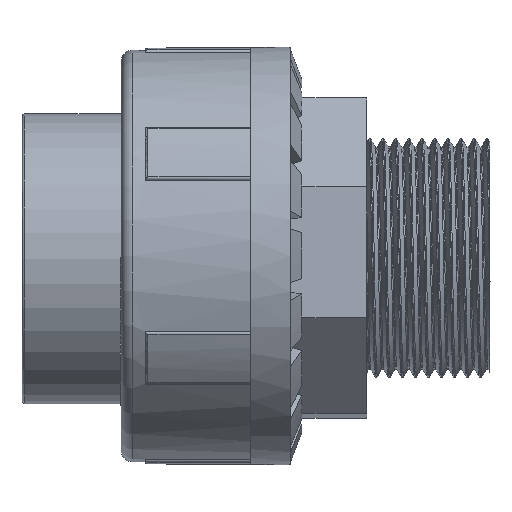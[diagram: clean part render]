
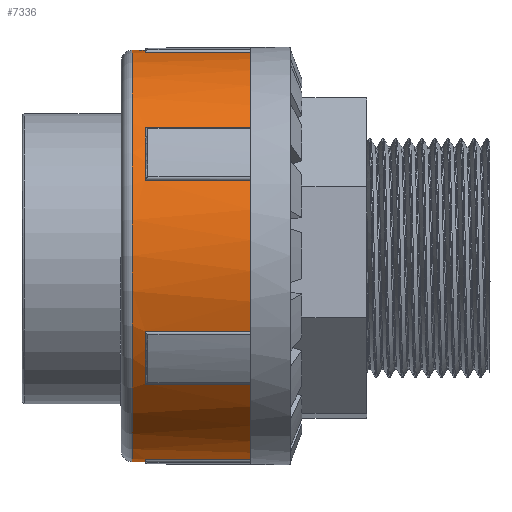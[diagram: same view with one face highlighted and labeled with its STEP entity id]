
A CAD part, top view. The second image highlights one B-rep face of the part: STEP entity #7336.
In plain terms, the highlighted cylindrical face has radius 36.5 mm (diameter 73 mm), a full revolution.
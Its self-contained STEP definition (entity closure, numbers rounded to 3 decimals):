
#1292=LINE('',#21440,#1959);
#1293=LINE('',#21446,#1960);
#1296=LINE('',#21485,#1963);
#1297=LINE('',#21491,#1964);
#1300=LINE('',#21530,#1967);
#1301=LINE('',#21536,#1968);
#1304=LINE('',#21575,#1971);
#1305=LINE('',#21581,#1972);
#1308=LINE('',#21620,#1975);
#1309=LINE('',#21626,#1976);
#1312=LINE('',#21678,#1979);
#1313=LINE('',#21681,#1980);
#1959=VECTOR('',#9376,10.);
#1960=VECTOR('',#9381,10.);
#1963=VECTOR('',#9398,10.);
#1964=VECTOR('',#9403,10.);
#1967=VECTOR('',#9420,10.);
#1968=VECTOR('',#9425,10.);
#1971=VECTOR('',#9442,10.);
#1972=VECTOR('',#9447,10.);
#1975=VECTOR('',#9464,10.);
#1976=VECTOR('',#9469,10.);
#1979=VECTOR('',#9506,10.);
#1980=VECTOR('',#9509,10.);
#2286=FACE_BOUND('',#3145,.T.);
#2693=FACE_OUTER_BOUND('',#3144,.T.);
#3144=EDGE_LOOP('',(#6755,#6756,#6757,#6758,#6759,#6760,#6761,#6762,#6763,
#6764,#6765,#6766,#6767,#6768,#6769,#6770,#6771,#6772,#6773,#6774,#6775,
#6776,#6777,#6778));
#3145=EDGE_LOOP('',(#6779));
#3291=CIRCLE('',#7839,36.5);
#3296=CIRCLE('',#7848,36.5);
#3301=CIRCLE('',#7857,36.5);
#3306=CIRCLE('',#7866,36.5);
#3311=CIRCLE('',#7875,36.5);
#3314=CIRCLE('',#7880,36.5);
#3315=CIRCLE('',#7881,36.5);
#3316=CIRCLE('',#7882,36.5);
#3317=CIRCLE('',#7883,36.5);
#3318=CIRCLE('',#7884,36.5);
#3322=CIRCLE('',#7888,36.5);
#3324=CIRCLE('',#7893,36.5);
#3326=CIRCLE('',#7898,36.5);
#3922=VERTEX_POINT('',#21423);
#3924=VERTEX_POINT('',#21427);
#3925=VERTEX_POINT('',#21442);
#3927=VERTEX_POINT('',#21445);
#3930=VERTEX_POINT('',#21468);
#3932=VERTEX_POINT('',#21472);
#3933=VERTEX_POINT('',#21487);
#3935=VERTEX_POINT('',#21490);
#3938=VERTEX_POINT('',#21513);
#3940=VERTEX_POINT('',#21517);
#3941=VERTEX_POINT('',#21532);
#3943=VERTEX_POINT('',#21535);
#3946=VERTEX_POINT('',#21558);
#3948=VERTEX_POINT('',#21562);
#3949=VERTEX_POINT('',#21577);
#3951=VERTEX_POINT('',#21580);
#3954=VERTEX_POINT('',#21603);
#3956=VERTEX_POINT('',#21607);
#3957=VERTEX_POINT('',#21622);
#3959=VERTEX_POINT('',#21625);
#3962=VERTEX_POINT('',#21653);
#3965=VERTEX_POINT('',#21659);
#3967=VERTEX_POINT('',#21665);
#3968=VERTEX_POINT('',#21680);
#3971=VERTEX_POINT('',#21704);
#4867=EDGE_CURVE('',#3922,#3924,#1292,.T.);
#4869=EDGE_CURVE('',#3927,#3925,#1293,.T.);
#4873=EDGE_CURVE('',#3924,#3927,#3291,.T.);
#4878=EDGE_CURVE('',#3930,#3932,#1296,.T.);
#4880=EDGE_CURVE('',#3935,#3933,#1297,.T.);
#4884=EDGE_CURVE('',#3932,#3935,#3296,.T.);
#4889=EDGE_CURVE('',#3938,#3940,#1300,.T.);
#4891=EDGE_CURVE('',#3943,#3941,#1301,.T.);
#4895=EDGE_CURVE('',#3940,#3943,#3301,.T.);
#4900=EDGE_CURVE('',#3946,#3948,#1304,.T.);
#4902=EDGE_CURVE('',#3951,#3949,#1305,.T.);
#4906=EDGE_CURVE('',#3948,#3951,#3306,.T.);
#4911=EDGE_CURVE('',#3954,#3956,#1308,.T.);
#4913=EDGE_CURVE('',#3959,#3957,#1309,.T.);
#4917=EDGE_CURVE('',#3956,#3959,#3311,.T.);
#4920=EDGE_CURVE('',#3933,#3922,#3314,.T.);
#4921=EDGE_CURVE('',#3941,#3930,#3315,.T.);
#4922=EDGE_CURVE('',#3949,#3938,#3316,.T.);
#4923=EDGE_CURVE('',#3957,#3946,#3317,.T.);
#4924=EDGE_CURVE('',#3962,#3954,#3318,.T.);
#4928=EDGE_CURVE('',#3925,#3965,#3322,.T.);
#4931=EDGE_CURVE('',#3965,#3967,#1312,.T.);
#4932=EDGE_CURVE('',#3968,#3962,#1313,.T.);
#4936=EDGE_CURVE('',#3967,#3968,#3324,.T.);
#4938=EDGE_CURVE('',#3971,#3971,#3326,.T.);
#6755=ORIENTED_EDGE('',*,*,#4869,.T.);
#6756=ORIENTED_EDGE('',*,*,#4928,.T.);
#6757=ORIENTED_EDGE('',*,*,#4931,.T.);
#6758=ORIENTED_EDGE('',*,*,#4936,.T.);
#6759=ORIENTED_EDGE('',*,*,#4932,.T.);
#6760=ORIENTED_EDGE('',*,*,#4924,.T.);
#6761=ORIENTED_EDGE('',*,*,#4911,.T.);
#6762=ORIENTED_EDGE('',*,*,#4917,.T.);
#6763=ORIENTED_EDGE('',*,*,#4913,.T.);
#6764=ORIENTED_EDGE('',*,*,#4923,.T.);
#6765=ORIENTED_EDGE('',*,*,#4900,.T.);
#6766=ORIENTED_EDGE('',*,*,#4906,.T.);
#6767=ORIENTED_EDGE('',*,*,#4902,.T.);
#6768=ORIENTED_EDGE('',*,*,#4922,.T.);
#6769=ORIENTED_EDGE('',*,*,#4889,.T.);
#6770=ORIENTED_EDGE('',*,*,#4895,.T.);
#6771=ORIENTED_EDGE('',*,*,#4891,.T.);
#6772=ORIENTED_EDGE('',*,*,#4921,.T.);
#6773=ORIENTED_EDGE('',*,*,#4878,.T.);
#6774=ORIENTED_EDGE('',*,*,#4884,.T.);
#6775=ORIENTED_EDGE('',*,*,#4880,.T.);
#6776=ORIENTED_EDGE('',*,*,#4920,.T.);
#6777=ORIENTED_EDGE('',*,*,#4867,.T.);
#6778=ORIENTED_EDGE('',*,*,#4873,.T.);
#6779=ORIENTED_EDGE('',*,*,#4938,.F.);
#6950=CYLINDRICAL_SURFACE('',#7899,36.5);
#7336=ADVANCED_FACE('',(#2693,#2286),#6950,.T.);
#7839=AXIS2_PLACEMENT_3D('',#21463,#9387,#9388);
#7848=AXIS2_PLACEMENT_3D('',#21508,#9409,#9410);
#7857=AXIS2_PLACEMENT_3D('',#21553,#9431,#9432);
#7866=AXIS2_PLACEMENT_3D('',#21598,#9453,#9454);
#7875=AXIS2_PLACEMENT_3D('',#21643,#9475,#9476);
#7880=AXIS2_PLACEMENT_3D('',#21649,#9485,#9486);
#7881=AXIS2_PLACEMENT_3D('',#21650,#9487,#9488);
#7882=AXIS2_PLACEMENT_3D('',#21651,#9489,#9490);
#7883=AXIS2_PLACEMENT_3D('',#21652,#9491,#9492);
#7884=AXIS2_PLACEMENT_3D('',#21654,#9493,#9494);
#7888=AXIS2_PLACEMENT_3D('',#21661,#9501,#9502);
#7893=AXIS2_PLACEMENT_3D('',#21698,#9515,#9516);
#7898=AXIS2_PLACEMENT_3D('',#21705,#9525,#9526);
#7899=AXIS2_PLACEMENT_3D('',#21706,#9527,#9528);
#9376=DIRECTION('',(-1.,0.,0.));
#9381=DIRECTION('',(1.,0.,0.));
#9387=DIRECTION('center_axis',(-1.,0.,0.));
#9388=DIRECTION('ref_axis',(0.,-1.,0.));
#9398=DIRECTION('',(-1.,0.,0.));
#9403=DIRECTION('',(1.,0.,0.));
#9409=DIRECTION('center_axis',(-1.,0.,0.));
#9410=DIRECTION('ref_axis',(0.,-1.,0.));
#9420=DIRECTION('',(-1.,0.,0.));
#9425=DIRECTION('',(1.,0.,0.));
#9431=DIRECTION('center_axis',(-1.,0.,0.));
#9432=DIRECTION('ref_axis',(0.,-1.,0.));
#9442=DIRECTION('',(-1.,0.,0.));
#9447=DIRECTION('',(1.,0.,0.));
#9453=DIRECTION('center_axis',(-1.,0.,0.));
#9454=DIRECTION('ref_axis',(0.,-1.,0.));
#9464=DIRECTION('',(-1.,0.,0.));
#9469=DIRECTION('',(1.,0.,0.));
#9475=DIRECTION('center_axis',(-1.,0.,0.));
#9476=DIRECTION('ref_axis',(0.,-1.,0.));
#9485=DIRECTION('center_axis',(-1.,0.,0.));
#9486=DIRECTION('ref_axis',(0.,-1.,0.));
#9487=DIRECTION('center_axis',(-1.,0.,0.));
#9488=DIRECTION('ref_axis',(0.,-1.,0.));
#9489=DIRECTION('center_axis',(-1.,0.,0.));
#9490=DIRECTION('ref_axis',(0.,-1.,0.));
#9491=DIRECTION('center_axis',(-1.,0.,0.));
#9492=DIRECTION('ref_axis',(0.,-1.,0.));
#9493=DIRECTION('center_axis',(-1.,0.,0.));
#9494=DIRECTION('ref_axis',(0.,-1.,0.));
#9501=DIRECTION('center_axis',(-1.,0.,0.));
#9502=DIRECTION('ref_axis',(0.,-1.,0.));
#9506=DIRECTION('',(-1.,0.,0.));
#9509=DIRECTION('',(1.,0.,0.));
#9515=DIRECTION('center_axis',(-1.,0.,0.));
#9516=DIRECTION('ref_axis',(0.,-1.,0.));
#9525=DIRECTION('center_axis',(-1.,0.,0.));
#9526=DIRECTION('ref_axis',(0.,1.,0.));
#9527=DIRECTION('center_axis',(-1.,0.,0.));
#9528=DIRECTION('ref_axis',(0.,-1.,0.));
#21423=CARTESIAN_POINT('',(23.,13.405,33.949));
#21427=CARTESIAN_POINT('',(4.25,13.405,33.949));
#21440=CARTESIAN_POINT('',(15.,13.405,33.949));
#21442=CARTESIAN_POINT('',(23.,22.699,28.584));
#21445=CARTESIAN_POINT('',(4.25,22.699,28.584));
#21446=CARTESIAN_POINT('',(15.,22.699,28.584));
#21463=CARTESIAN_POINT('Origin',(4.25,0.,0.));
#21468=CARTESIAN_POINT('',(23.,-22.699,28.584));
#21472=CARTESIAN_POINT('',(4.25,-22.699,28.584));
#21485=CARTESIAN_POINT('',(15.,-22.699,28.584));
#21487=CARTESIAN_POINT('',(23.,-13.405,33.949));
#21490=CARTESIAN_POINT('',(4.25,-13.405,33.949));
#21491=CARTESIAN_POINT('',(15.,-13.405,33.949));
#21508=CARTESIAN_POINT('Origin',(4.25,0.,0.));
#21513=CARTESIAN_POINT('',(23.,-36.103,-5.366));
#21517=CARTESIAN_POINT('',(4.25,-36.103,-5.366));
#21530=CARTESIAN_POINT('',(15.,-36.103,-5.366));
#21532=CARTESIAN_POINT('',(23.,-36.103,5.366));
#21535=CARTESIAN_POINT('',(4.25,-36.103,5.366));
#21536=CARTESIAN_POINT('',(15.,-36.103,5.366));
#21553=CARTESIAN_POINT('Origin',(4.25,0.,0.));
#21558=CARTESIAN_POINT('',(23.,-13.405,-33.949));
#21562=CARTESIAN_POINT('',(4.25,-13.405,-33.949));
#21575=CARTESIAN_POINT('',(15.,-13.405,-33.949));
#21577=CARTESIAN_POINT('',(23.,-22.699,-28.584));
#21580=CARTESIAN_POINT('',(4.25,-22.699,-28.584));
#21581=CARTESIAN_POINT('',(15.,-22.699,-28.584));
#21598=CARTESIAN_POINT('Origin',(4.25,0.,0.));
#21603=CARTESIAN_POINT('',(23.,22.699,-28.584));
#21607=CARTESIAN_POINT('',(4.25,22.699,-28.584));
#21620=CARTESIAN_POINT('',(15.,22.699,-28.584));
#21622=CARTESIAN_POINT('',(23.,13.405,-33.949));
#21625=CARTESIAN_POINT('',(4.25,13.405,-33.949));
#21626=CARTESIAN_POINT('',(15.,13.405,-33.949));
#21643=CARTESIAN_POINT('Origin',(4.25,0.,0.));
#21649=CARTESIAN_POINT('Origin',(23.,0.,0.));
#21650=CARTESIAN_POINT('Origin',(23.,0.,0.));
#21651=CARTESIAN_POINT('Origin',(23.,0.,0.));
#21652=CARTESIAN_POINT('Origin',(23.,0.,0.));
#21653=CARTESIAN_POINT('',(23.,36.103,-5.366));
#21654=CARTESIAN_POINT('Origin',(23.,0.,0.));
#21659=CARTESIAN_POINT('',(23.,36.103,5.366));
#21661=CARTESIAN_POINT('Origin',(23.,0.,0.));
#21665=CARTESIAN_POINT('',(4.25,36.103,5.366));
#21678=CARTESIAN_POINT('',(15.,36.103,5.366));
#21680=CARTESIAN_POINT('',(4.25,36.103,-5.366));
#21681=CARTESIAN_POINT('',(15.,36.103,-5.366));
#21698=CARTESIAN_POINT('Origin',(4.25,0.,0.));
#21704=CARTESIAN_POINT('',(2.,-36.5,0.));
#21705=CARTESIAN_POINT('Origin',(2.,0.,0.));
#21706=CARTESIAN_POINT('Origin',(15.,0.,0.));
